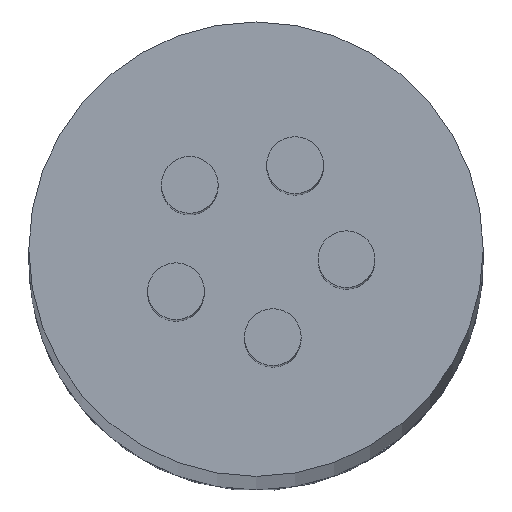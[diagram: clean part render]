
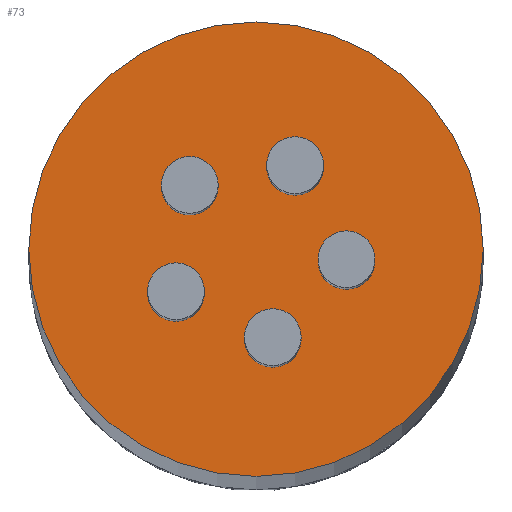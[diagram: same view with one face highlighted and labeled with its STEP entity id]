
A CAD part, top view. The second image highlights one B-rep face of the part: STEP entity #73.
In plain terms, the highlighted planar face has unit normal (0, 0, 1).
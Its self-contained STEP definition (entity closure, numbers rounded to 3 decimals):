
#5 = VERTEX_POINT ( 'NONE', #221 ) ;
#10 = DIRECTION ( 'NONE',  ( 1., 0., 0. ) ) ;
#16 = DIRECTION ( 'NONE',  ( 0., 0., 1. ) ) ;
#28 = ORIENTED_EDGE ( 'NONE', *, *, #913, .F. ) ;
#30 = DIRECTION ( 'NONE',  ( 0., 0., 1. ) ) ;
#47 = VERTEX_POINT ( 'NONE', #317 ) ;
#52 = DIRECTION ( 'NONE',  ( 0., 0., 1. ) ) ;
#64 = VERTEX_POINT ( 'NONE', #1092 ) ;
#73 = ADVANCED_FACE ( 'NONE', ( #783, #769, #795, #659, #1000, #305 ), #660, .T. ) ;
#91 = VERTEX_POINT ( 'NONE', #234 ) ;
#94 = CIRCLE ( 'NONE', #706, 0.75 ) ;
#96 = CIRCLE ( 'NONE', #939, 0.75 ) ;
#101 = AXIS2_PLACEMENT_3D ( 'NONE', #874, #701, #10 ) ;
#102 = DIRECTION ( 'NONE',  ( 1., 0., 0. ) ) ;
#104 = VERTEX_POINT ( 'NONE', #476 ) ;
#106 = AXIS2_PLACEMENT_3D ( 'NONE', #1030, #436, #707 ) ;
#126 = EDGE_CURVE ( 'NONE', #64, #91, #94, .T. ) ;
#143 = EDGE_CURVE ( 'NONE', #780, #572, #734, .T. ) ;
#144 = DIRECTION ( 'NONE',  ( 0., 0., 1. ) ) ;
#166 = CARTESIAN_POINT ( 'NONE',  ( -2.114, -1.154, 200. ) ) ;
#168 = EDGE_LOOP ( 'NONE', ( #208, #28 ) ) ;
#208 = ORIENTED_EDGE ( 'NONE', *, *, #505, .F. ) ;
#221 = CARTESIAN_POINT ( 'NONE',  ( -0.306, -2.367, 200. ) ) ;
#229 = CIRCLE ( 'NONE', #101, 0.75 ) ;
#234 = CARTESIAN_POINT ( 'NONE',  ( -2.5, 1.654, 200. ) ) ;
#239 = DIRECTION ( 'NONE',  ( 0., 0., 1. ) ) ;
#250 = AXIS2_PLACEMENT_3D ( 'NONE', #1040, #951, #609 ) ;
#259 = ORIENTED_EDGE ( 'NONE', *, *, #126, .F. ) ;
#262 = CARTESIAN_POINT ( 'NONE',  ( -1.75, 1.654, 200. ) ) ;
#268 = VERTEX_POINT ( 'NONE', #338 ) ;
#270 = AXIS2_PLACEMENT_3D ( 'NONE', #470, #475, #310 ) ;
#288 = EDGE_CURVE ( 'NONE', #472, #1060, #229, .T. ) ;
#305 = FACE_OUTER_BOUND ( 'NONE', #817, .T. ) ;
#309 = EDGE_CURVE ( 'NONE', #313, #980, #954, .T. ) ;
#310 = DIRECTION ( 'NONE',  ( 1., 0., 0. ) ) ;
#313 = VERTEX_POINT ( 'NONE', #527 ) ;
#317 = CARTESIAN_POINT ( 'NONE',  ( 3.138, -0.309, 200. ) ) ;
#320 = EDGE_CURVE ( 'NONE', #572, #780, #794, .T. ) ;
#328 = ORIENTED_EDGE ( 'NONE', *, *, #309, .F. ) ;
#338 = CARTESIAN_POINT ( 'NONE',  ( 1.638, -0.309, 200. ) ) ;
#339 = ORIENTED_EDGE ( 'NONE', *, *, #432, .F. ) ;
#346 = ORIENTED_EDGE ( 'NONE', *, *, #684, .F. ) ;
#354 = CARTESIAN_POINT ( 'NONE',  ( 2.388, -0.309, 200. ) ) ;
#356 = DIRECTION ( 'NONE',  ( 0., 0., 1. ) ) ;
#398 = CIRCLE ( 'NONE', #431, 0.75 ) ;
#404 = EDGE_LOOP ( 'NONE', ( #890, #339 ) ) ;
#411 = CIRCLE ( 'NONE', #106, 0.75 ) ;
#431 = AXIS2_PLACEMENT_3D ( 'NONE', #1059, #52, #1073 ) ;
#432 = EDGE_CURVE ( 'NONE', #104, #5, #1064, .T. ) ;
#436 = DIRECTION ( 'NONE',  ( 0., 0., 1. ) ) ;
#444 = ORIENTED_EDGE ( 'NONE', *, *, #143, .T. ) ;
#445 = EDGE_LOOP ( 'NONE', ( #1063, #1034 ) ) ;
#450 = DIRECTION ( 'NONE',  ( 1., 0., 0. ) ) ;
#467 = CIRCLE ( 'NONE', #270, 0.75 ) ;
#470 = CARTESIAN_POINT ( 'NONE',  ( 0.444, -2.367, 200. ) ) ;
#472 = VERTEX_POINT ( 'NONE', #869 ) ;
#475 = DIRECTION ( 'NONE',  ( 0., 0., 1. ) ) ;
#476 = CARTESIAN_POINT ( 'NONE',  ( 1.194, -2.367, 200. ) ) ;
#505 = EDGE_CURVE ( 'NONE', #268, #47, #745, .T. ) ;
#527 = CARTESIAN_POINT ( 'NONE',  ( 1.782, 2.176, 200. ) ) ;
#572 = VERTEX_POINT ( 'NONE', #1056 ) ;
#578 = AXIS2_PLACEMENT_3D ( 'NONE', #166, #239, #1091 ) ;
#584 = DIRECTION ( 'NONE',  ( 0., 0., 1. ) ) ;
#595 = EDGE_CURVE ( 'NONE', #980, #313, #398, .T. ) ;
#604 = CARTESIAN_POINT ( 'NONE',  ( 1.032, 2.176, 200. ) ) ;
#605 = EDGE_CURVE ( 'NONE', #5, #104, #467, .T. ) ;
#609 = DIRECTION ( 'NONE',  ( 1., 0., 0. ) ) ;
#629 = CARTESIAN_POINT ( 'NONE',  ( 0., 0., 200. ) ) ;
#637 = EDGE_LOOP ( 'NONE', ( #346, #259 ) ) ;
#649 = AXIS2_PLACEMENT_3D ( 'NONE', #839, #584, #1001 ) ;
#651 = CARTESIAN_POINT ( 'NONE',  ( -1.75, 1.654, 200. ) ) ;
#659 = FACE_BOUND ( 'NONE', #637, .T. ) ;
#660 = PLANE ( 'NONE',  #649 ) ;
#678 = CARTESIAN_POINT ( 'NONE',  ( -6., 0., 200. ) ) ;
#684 = EDGE_CURVE ( 'NONE', #91, #64, #96, .T. ) ;
#701 = DIRECTION ( 'NONE',  ( 0., 0., 1. ) ) ;
#706 = AXIS2_PLACEMENT_3D ( 'NONE', #262, #773, #933 ) ;
#707 = DIRECTION ( 'NONE',  ( 1., 0., 0. ) ) ;
#718 = DIRECTION ( 'NONE',  ( 1., 0., 0. ) ) ;
#734 = CIRCLE ( 'NONE', #740, 6. ) ;
#740 = AXIS2_PLACEMENT_3D ( 'NONE', #941, #1007, #1012 ) ;
#745 = CIRCLE ( 'NONE', #985, 0.75 ) ;
#769 = FACE_BOUND ( 'NONE', #168, .T. ) ;
#773 = DIRECTION ( 'NONE',  ( 0., 0., 1. ) ) ;
#780 = VERTEX_POINT ( 'NONE', #678 ) ;
#783 = FACE_BOUND ( 'NONE', #404, .T. ) ;
#790 = AXIS2_PLACEMENT_3D ( 'NONE', #629, #356, #718 ) ;
#794 = CIRCLE ( 'NONE', #790, 6. ) ;
#795 = FACE_BOUND ( 'NONE', #932, .T. ) ;
#797 = EDGE_CURVE ( 'NONE', #1060, #472, #824, .T. ) ;
#807 = CARTESIAN_POINT ( 'NONE',  ( -2.864, -1.154, 200. ) ) ;
#817 = EDGE_LOOP ( 'NONE', ( #444, #999 ) ) ;
#824 = CIRCLE ( 'NONE', #578, 0.75 ) ;
#825 = DIRECTION ( 'NONE',  ( 1., 0., 0. ) ) ;
#826 = AXIS2_PLACEMENT_3D ( 'NONE', #604, #16, #102 ) ;
#839 = CARTESIAN_POINT ( 'NONE',  ( 0., 0., 200. ) ) ;
#864 = ORIENTED_EDGE ( 'NONE', *, *, #595, .F. ) ;
#869 = CARTESIAN_POINT ( 'NONE',  ( -1.364, -1.154, 200. ) ) ;
#874 = CARTESIAN_POINT ( 'NONE',  ( -2.114, -1.154, 200. ) ) ;
#877 = CARTESIAN_POINT ( 'NONE',  ( 0.282, 2.176, 200. ) ) ;
#890 = ORIENTED_EDGE ( 'NONE', *, *, #605, .F. ) ;
#913 = EDGE_CURVE ( 'NONE', #47, #268, #411, .T. ) ;
#932 = EDGE_LOOP ( 'NONE', ( #864, #328 ) ) ;
#933 = DIRECTION ( 'NONE',  ( 1., 0., 0. ) ) ;
#939 = AXIS2_PLACEMENT_3D ( 'NONE', #651, #144, #825 ) ;
#941 = CARTESIAN_POINT ( 'NONE',  ( 0., 0., 200. ) ) ;
#951 = DIRECTION ( 'NONE',  ( 0., 0., 1. ) ) ;
#954 = CIRCLE ( 'NONE', #826, 0.75 ) ;
#980 = VERTEX_POINT ( 'NONE', #877 ) ;
#985 = AXIS2_PLACEMENT_3D ( 'NONE', #354, #30, #450 ) ;
#999 = ORIENTED_EDGE ( 'NONE', *, *, #320, .T. ) ;
#1000 = FACE_BOUND ( 'NONE', #445, .T. ) ;
#1001 = DIRECTION ( 'NONE',  ( 1., 0., 0. ) ) ;
#1007 = DIRECTION ( 'NONE',  ( 0., 0., 1. ) ) ;
#1012 = DIRECTION ( 'NONE',  ( 1., 0., 0. ) ) ;
#1030 = CARTESIAN_POINT ( 'NONE',  ( 2.388, -0.309, 200. ) ) ;
#1034 = ORIENTED_EDGE ( 'NONE', *, *, #288, .F. ) ;
#1040 = CARTESIAN_POINT ( 'NONE',  ( 0.444, -2.367, 200. ) ) ;
#1056 = CARTESIAN_POINT ( 'NONE',  ( 6., 0., 200. ) ) ;
#1059 = CARTESIAN_POINT ( 'NONE',  ( 1.032, 2.176, 200. ) ) ;
#1060 = VERTEX_POINT ( 'NONE', #807 ) ;
#1063 = ORIENTED_EDGE ( 'NONE', *, *, #797, .F. ) ;
#1064 = CIRCLE ( 'NONE', #250, 0.75 ) ;
#1073 = DIRECTION ( 'NONE',  ( 1., 0., 0. ) ) ;
#1091 = DIRECTION ( 'NONE',  ( 1., 0., 0. ) ) ;
#1092 = CARTESIAN_POINT ( 'NONE',  ( -1., 1.654, 200. ) ) ;
